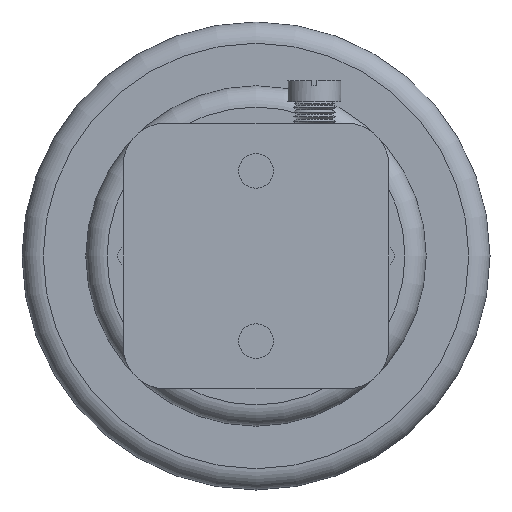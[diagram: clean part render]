
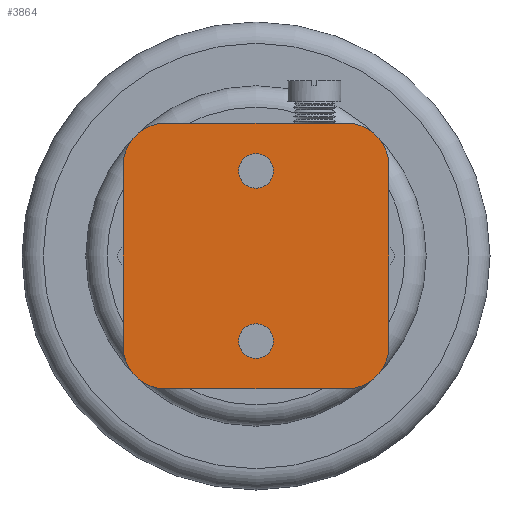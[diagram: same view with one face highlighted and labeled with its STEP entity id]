
A CAD part, front view. The second image highlights one B-rep face of the part: STEP entity #3864.
In plain terms, the highlighted planar face has unit normal (0, -1, 0).
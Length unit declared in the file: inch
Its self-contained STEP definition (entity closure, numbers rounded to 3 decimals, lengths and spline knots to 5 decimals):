
#59 = ORIENTED_EDGE ( 'NONE', *, *, #4233, .F. ) ;
#71 = ORIENTED_EDGE ( 'NONE', *, *, #4224, .F. ) ;
#142 = ORIENTED_EDGE ( 'NONE', *, *, #4761, .T. ) ;
#166 = ORIENTED_EDGE ( 'NONE', *, *, #4148, .T. ) ;
#239 = ORIENTED_EDGE ( 'NONE', *, *, #4158, .T. ) ;
#240 = ORIENTED_EDGE ( 'NONE', *, *, #4042, .T. ) ;
#279 = ORIENTED_EDGE ( 'NONE', *, *, #4149, .F. ) ;
#389 = ORIENTED_EDGE ( 'NONE', *, *, #4032, .F. ) ;
#393 = ORIENTED_EDGE ( 'NONE', *, *, #4664, .T. ) ;
#523 = ORIENTED_EDGE ( 'NONE', *, *, #4198, .T. ) ;
#555 = EDGE_LOOP ( 'NONE', ( #240 ) ) ;
#558 = EDGE_LOOP ( 'NONE', ( #59, #239, #389, #393, #71, #523, #279, #166 ) ) ;
#598 = VERTEX_POINT ( 'NONE', #950 ) ;
#696 = CARTESIAN_POINT ( 'NONE',  ( 1.0625, -2.255, 1.0625 ) ) ;
#697 = DIRECTION ( 'NONE',  ( 0., -1., 0. ) ) ;
#698 = DIRECTION ( 'NONE',  ( -1., 0., 0. ) ) ;
#779 = CARTESIAN_POINT ( 'NONE',  ( 1.5625, -2.255, -1.5625 ) ) ;
#783 = DIRECTION ( 'NONE',  ( 0., 0., -1. ) ) ;
#801 = CARTESIAN_POINT ( 'NONE',  ( -1.5625, -2.255, -1.5625 ) ) ;
#815 = DIRECTION ( 'NONE',  ( 0., 0., 1. ) ) ;
#838 = CARTESIAN_POINT ( 'NONE',  ( 1.0625, -2.255, -1.0625 ) ) ;
#839 = DIRECTION ( 'NONE',  ( 0., -1., 0. ) ) ;
#840 = DIRECTION ( 'NONE',  ( -1., 0., 0. ) ) ;
#852 = DIRECTION ( 'NONE',  ( -1., 0., 0. ) ) ;
#856 = CARTESIAN_POINT ( 'NONE',  ( 0., -2.255, -1. ) ) ;
#857 = DIRECTION ( 'NONE',  ( 0., 1., 0. ) ) ;
#884 = DIRECTION ( 'NONE',  ( -1., 0., 0. ) ) ;
#950 = CARTESIAN_POINT ( 'NONE',  ( -0.203, -2.255, 1. ) ) ;
#984 = VERTEX_POINT ( 'NONE', #1796 ) ;
#987 = VERTEX_POINT ( 'NONE', #1828 ) ;
#1019 = VERTEX_POINT ( 'NONE', #1704 ) ;
#1023 = VERTEX_POINT ( 'NONE', #1730 ) ;
#1032 = VERTEX_POINT ( 'NONE', #1718 ) ;
#1130 = VERTEX_POINT ( 'NONE', #1766 ) ;
#1295 = VERTEX_POINT ( 'NONE', #1754 ) ;
#1334 = VERTEX_POINT ( 'NONE', #1750 ) ;
#1336 = EDGE_LOOP ( 'NONE', ( #142 ) ) ;
#1704 = CARTESIAN_POINT ( 'NONE',  ( -1.0625, -2.255, -1.5625 ) ) ;
#1718 = CARTESIAN_POINT ( 'NONE',  ( 1.5625, -2.255, 1.0625 ) ) ;
#1730 = CARTESIAN_POINT ( 'NONE',  ( -1.0625, -2.255, 1.5625 ) ) ;
#1750 = CARTESIAN_POINT ( 'NONE',  ( 1.5625, -2.255, -1.0625 ) ) ;
#1754 = CARTESIAN_POINT ( 'NONE',  ( -1.5625, -2.255, 1.0625 ) ) ;
#1766 = CARTESIAN_POINT ( 'NONE',  ( 1.0625, -2.255, 1.5625 ) ) ;
#1796 = CARTESIAN_POINT ( 'NONE',  ( -1.5625, -2.255, -1.0625 ) ) ;
#1828 = CARTESIAN_POINT ( 'NONE',  ( 1.0625, -2.255, -1.5625 ) ) ;
#2398 = FACE_BOUND ( 'NONE', #555, .T. ) ;
#2401 = FACE_BOUND ( 'NONE', #1336, .T. ) ;
#2413 = FACE_OUTER_BOUND ( 'NONE', #558, .T. ) ;
#2666 = CARTESIAN_POINT ( 'NONE',  ( 1.5625, -2.255, -1.5625 ) ) ;
#2967 = LINE ( 'NONE', #779, #2969 ) ;
#2969 = VECTOR ( 'NONE', #783, 39.37008 ) ;
#2972 = LINE ( 'NONE', #801, #2980 ) ;
#2980 = VECTOR ( 'NONE', #815, 39.37008 ) ;
#2987 = CIRCLE ( 'NONE', #3246, 0.5 ) ;
#3024 = CIRCLE ( 'NONE', #3364, 0.203 ) ;
#3044 = CIRCLE ( 'NONE', #3398, 0.5 ) ;
#3110 = VERTEX_POINT ( 'NONE', #3640 ) ;
#3159 = AXIS2_PLACEMENT_3D ( 'NONE', #5527, #5528, #5529 ) ;
#3217 = AXIS2_PLACEMENT_3D ( 'NONE', #856, #857, #852 ) ;
#3246 = AXIS2_PLACEMENT_3D ( 'NONE', #838, #839, #840 ) ;
#3364 = AXIS2_PLACEMENT_3D ( 'NONE', #3556, #3557, #3558 ) ;
#3393 = AXIS2_PLACEMENT_3D ( 'NONE', #5501, #5502, #5503 ) ;
#3398 = AXIS2_PLACEMENT_3D ( 'NONE', #696, #697, #698 ) ;
#3556 = CARTESIAN_POINT ( 'NONE',  ( 0., -2.255, 1. ) ) ;
#3557 = DIRECTION ( 'NONE',  ( 0., 1., 0. ) ) ;
#3558 = DIRECTION ( 'NONE',  ( -1., 0., 0. ) ) ;
#3640 = CARTESIAN_POINT ( 'NONE',  ( -0.203, -2.255, -1. ) ) ;
#3864 = ADVANCED_FACE ( 'NONE', ( #2401, #2398, #2413 ), #5177, .F. ) ;
#4032 = EDGE_CURVE ( 'NONE', #987, #1019, #4425, .T. ) ;
#4042 = EDGE_CURVE ( 'NONE', #3110, #3110, #4407, .T. ) ;
#4148 = EDGE_CURVE ( 'NONE', #1023, #1295, #4360, .T. ) ;
#4149 = EDGE_CURVE ( 'NONE', #1023, #1130, #4338, .T. ) ;
#4158 = EDGE_CURVE ( 'NONE', #984, #1019, #4265, .T. ) ;
#4198 = EDGE_CURVE ( 'NONE', #1032, #1130, #3044, .T. ) ;
#4224 = EDGE_CURVE ( 'NONE', #1032, #1334, #2967, .T. ) ;
#4233 = EDGE_CURVE ( 'NONE', #984, #1295, #2972, .T. ) ;
#4265 = CIRCLE ( 'NONE', #3159, 0.5 ) ;
#4338 = LINE ( 'NONE', #5500, #4361 ) ;
#4360 = CIRCLE ( 'NONE', #3393, 0.5 ) ;
#4361 = VECTOR ( 'NONE', #5492, 39.37008 ) ;
#4407 = CIRCLE ( 'NONE', #3217, 0.203 ) ;
#4425 = LINE ( 'NONE', #2666, #4426 ) ;
#4426 = VECTOR ( 'NONE', #884, 39.37008 ) ;
#4664 = EDGE_CURVE ( 'NONE', #987, #1334, #2987, .T. ) ;
#4761 = EDGE_CURVE ( 'NONE', #598, #598, #3024, .T. ) ;
#4809 = AXIS2_PLACEMENT_3D ( 'NONE', #5285, #5333, #5296 ) ;
#5177 = PLANE ( 'NONE',  #4809 ) ;
#5285 = CARTESIAN_POINT ( 'NONE',  ( -1.5625, -2.255, -1.5625 ) ) ;
#5296 = DIRECTION ( 'NONE',  ( -1., 0., 0. ) ) ;
#5333 = DIRECTION ( 'NONE',  ( 0., 1., 0. ) ) ;
#5492 = DIRECTION ( 'NONE',  ( 1., 0., 0. ) ) ;
#5500 = CARTESIAN_POINT ( 'NONE',  ( 1.5625, -2.255, 1.5625 ) ) ;
#5501 = CARTESIAN_POINT ( 'NONE',  ( -1.0625, -2.255, 1.0625 ) ) ;
#5502 = DIRECTION ( 'NONE',  ( 0., -1., 0. ) ) ;
#5503 = DIRECTION ( 'NONE',  ( -1., 0., 0. ) ) ;
#5527 = CARTESIAN_POINT ( 'NONE',  ( -1.0625, -2.255, -1.0625 ) ) ;
#5528 = DIRECTION ( 'NONE',  ( 0., -1., 0. ) ) ;
#5529 = DIRECTION ( 'NONE',  ( -1., 0., 0. ) ) ;
